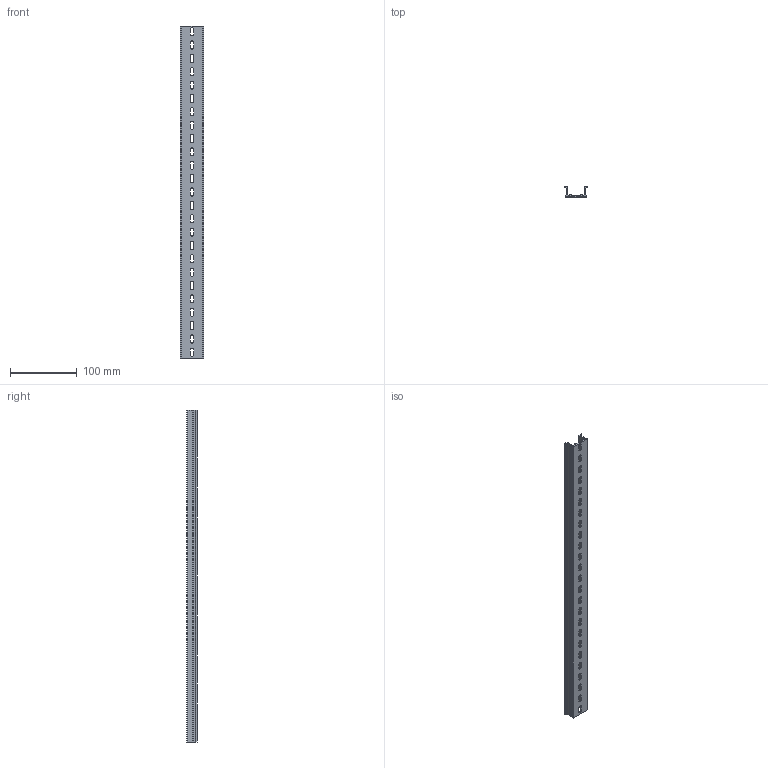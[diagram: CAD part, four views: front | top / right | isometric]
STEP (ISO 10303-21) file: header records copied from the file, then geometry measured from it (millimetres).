
FILE_DESCRIPTION(/* description */ (''),/* implementation_level */ '2;1');
FILE_NAME(/* name */ '22648-(TKB KD-25)HP 3D.stp',/* time_stamp */ '2024-12-05T14:05:55+09:00',/* author */ ('usercadg104'),/* organization */ (''),/* preprocessor_version */ 'ST-DEVELOPER v19.2',/* originating_system */ 'Autodesk Inventor 2023',/* authorisation */ '');
FILE_SCHEMA (('CONFIG_CONTROL_DESIGN'));
Length unit declared in the file: millimetre
Products named in the file (1): TKB KD-3(林)
Bounding box: 35 x 15 x 497 mm (x, y, z)
Volume: 58141.9 mm3; surface area: 67233.2 mm2
Topology: 1 solids, 1 shells, 140 faces, 414 edges, 276 vertices
Faces by surface type: plane 86, cylinder 54
Entity records: 4829 total; most frequent: CARTESIAN_POINT 831, ORIENTED_EDGE 828, DIRECTION 804, EDGE_CURVE 414, LINE 306, VECTOR 306, VERTEX_POINT 276, AXIS2_PLACEMENT_3D 249
